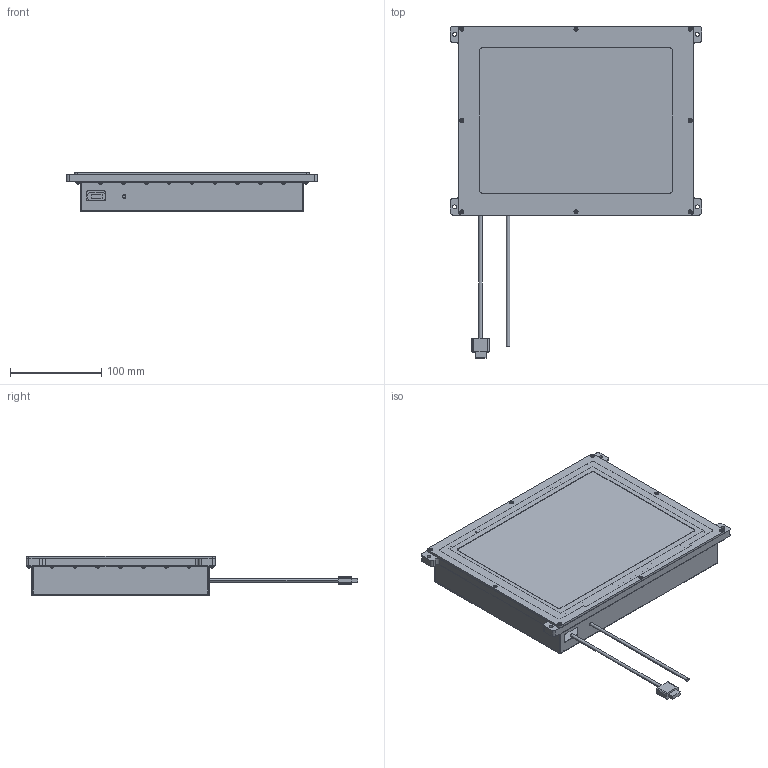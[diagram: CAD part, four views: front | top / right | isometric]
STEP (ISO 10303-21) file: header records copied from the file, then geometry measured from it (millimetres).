
FILE_DESCRIPTION(('STEP AP214'),'1');
FILE_NAME('BLCW10.4Q1R24V_IND_D.stp','2024-05-18T10:53:54',(''),(''),'Spatial InterOp 3D',' ',' ');
FILE_SCHEMA(('AUTOMOTIVE_DESIGN { 1 0 10303 214 1 1 1 1 }'));
Length unit declared in the file: millimetre
Products named in the file (1): NAUO53#Display;Boss.-Extru.1
Bounding box: 275 x 363.48 x 43.5 mm (x, y, z)
Volume: 386539.5 mm3; surface area: 500554.8 mm2
Topology: 55 solids, 55 shells, 2428 faces, 5928 edges, 3563 vertices
Faces by surface type: plane 1138, cone 560, cylinder 491, torus 160, sphere 79
Entity records: 94203 total; most frequent: CARTESIAN_POINT 13730, DIRECTION 13121, ORIENTED_EDGE 11664, EDGE_CURVE 5832, AXIS2_PLACEMENT_3D 5421, VERTEX_POINT 3562, STYLED_ITEM 2966, PRESENTATION_STYLE_ASSIGNMENT 2966
